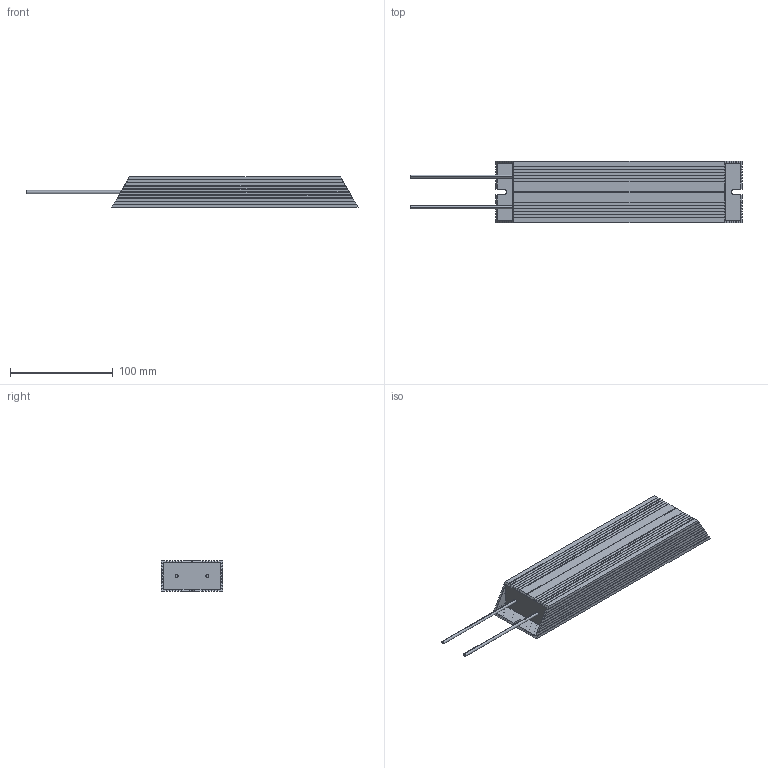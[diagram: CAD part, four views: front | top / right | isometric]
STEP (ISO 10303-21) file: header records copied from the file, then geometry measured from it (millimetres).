
FILE_DESCRIPTION (( 'STEP AP203' ), '1' );
FILE_NAME ('Ðåçèñòîð òîðìîçíîé _ IBRA-2000-60-IP54.STEP', '2025-03-27T10:44:05', ( '' ), ( '' ), 'SwSTEP 2.0', 'SolidWorks 2021', '' );
FILE_SCHEMA (( 'CONFIG_CONTROL_DESIGN' ));
Length unit declared in the file: millimetre
Products named in the file (1): Ðåçèñòîð òîðìîçíîé _ IBRA-2000-60-IP54
Bounding box: 323.83 x 60 x 30 mm (x, y, z)
Volume: 375655.1 mm3; surface area: 69742.5 mm2
Topology: 1 solids, 1 shells, 216 faces, 635 edges, 423 vertices
Faces by surface type: plane 152, cylinder 64
Entity records: 7135 total; most frequent: CARTESIAN_POINT 1625, ORIENTED_EDGE 1270, DIRECTION 970, EDGE_CURVE 635, VECTOR 506, LINE 506, VERTEX_POINT 423, AXIS2_PLACEMENT_3D 232
